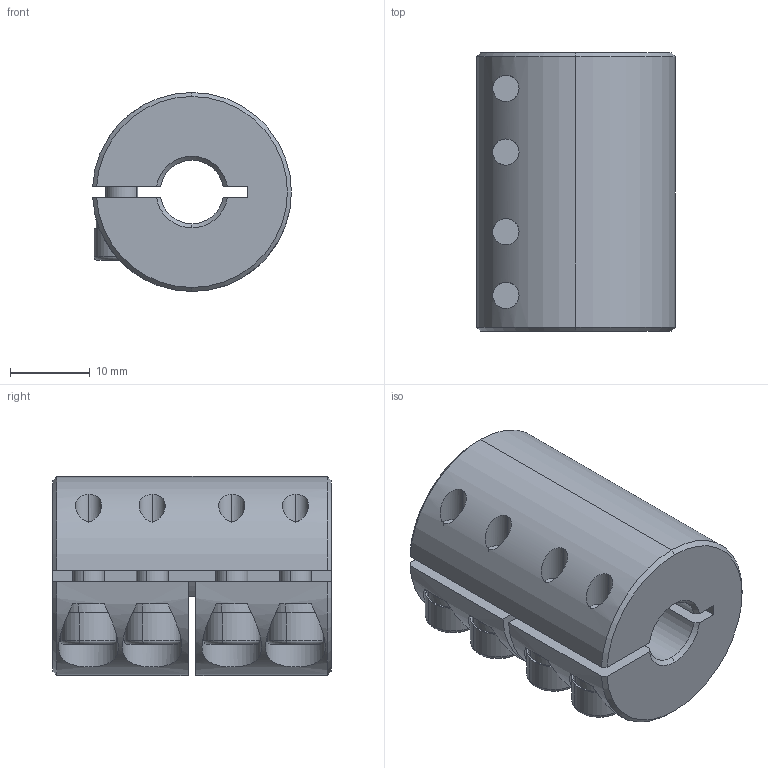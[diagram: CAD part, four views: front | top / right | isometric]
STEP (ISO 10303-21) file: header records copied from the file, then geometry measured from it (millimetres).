
FILE_DESCRIPTION (( 'STEP AP203' ), '1' );
FILE_NAME ('LL-B-D25L35-8-8.STEP', '2021-11-05T07:02:26', ( '' ), ( '' ), 'SwSTEP 2.0', 'SolidWorks 2018', '' );
FILE_SCHEMA (( 'CONFIG_CONTROL_DESIGN' ));
Length unit declared in the file: millimetre
Products named in the file (1): LL-B-D25L35-8-8
Bounding box: 24.98 x 35 x 25 mm (x, y, z)
Volume: 14351 mm3; surface area: 6883.1 mm2
Topology: 1 solids, 1 shells, 187 faces, 478 edges, 297 vertices
Faces by surface type: plane 90, cylinder 69, cone 20, torus 8
Entity records: 6142 total; most frequent: CARTESIAN_POINT 1467, DIRECTION 1011, ORIENTED_EDGE 940, EDGE_CURVE 470, AXIS2_PLACEMENT_3D 393, VERTEX_POINT 297, VECTOR 225, LINE 225
